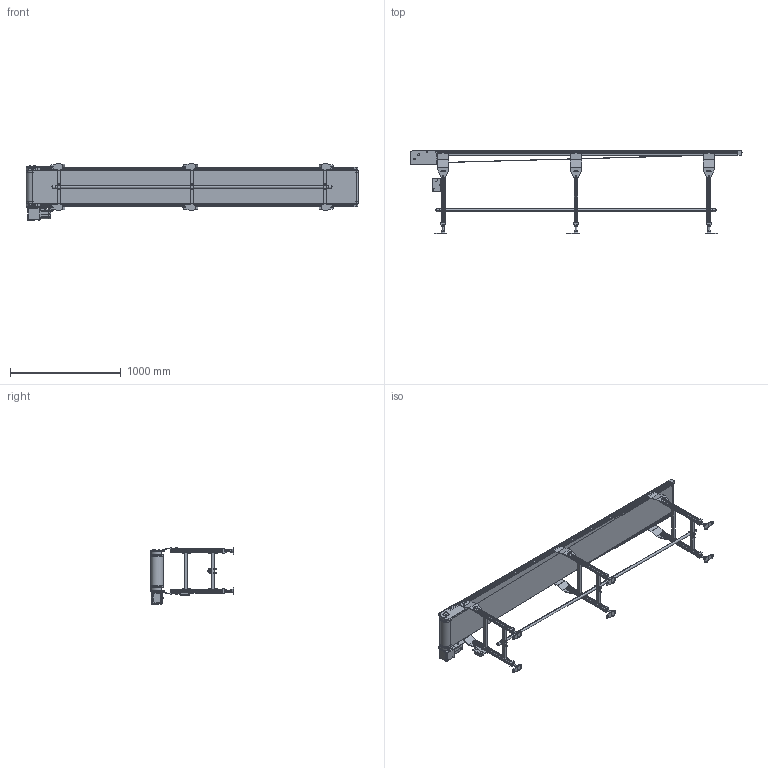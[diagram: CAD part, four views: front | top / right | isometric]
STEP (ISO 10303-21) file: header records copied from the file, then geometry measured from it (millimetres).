
FILE_DESCRIPTION( (''), '2;1');
FILE_NAME ('MB23-HS-309-300-300-R-K-100-O.stp','2025-02-17T10:43:47',(''),(''),'spGate 20.6.2 (****-****-****-****)','','');
FILE_SCHEMA (('AUTOMOTIVE_DESIGN'));
Length unit declared in the file: millimetre
Products named in the file (57): NewModel; MB23-HS-300-3000-R; TEMP_X_T-prt0; TEMP_X_T-prt1; TEMP_X_T-prt2; TEMP_X_T-prt3; TEMP_X_T-prt4; TEMP_X_T-prt5; TEMP_X_T-prt6; TEMP_X_T-prt7; TEMP_X_T-prt8; TEMP_X_T-prt9; TEMP_X_T-prt10; TEMP_X_T-prt11; TEMP_X_T-prt12; TEMP_X_T-prt13; TEMP_X_T-prt14; TEMP_X_T-prt15; TEMP_X_T-prt16; TEMP_X_T-prt17; TEMP_X_T-prt18; TEMP_X_T-prt19; TEMP_X_T-prt20; TEMP_X_T-prt21; TEMP_X_T-prt22; TEMP_X_T-prt23; TEMP_X_T-prt24; TEMP_X_T-prt25; TEMP_X_T-prt26; TEMP_X_T-prt27; TEMP_X_T-prt28; TEMP_X_T-prt29; TEMP_X_T-prt30; TEMP_X_T-prt31; TEMP_X_T-prt32; TEMP_X_T-prt33; TEMP_X_T-prt34; TEMP_X_T-prt35; TEMP_X_T-prt36; TEMP_X_T-prt37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
Assembly tree (56 placements, depth 3):
  NewModel
    MB23-HS-300-3000-R
      TEMP_X_T-prt0
      TEMP_X_T-prt1
      TEMP_X_T-prt2
      TEMP_X_T-prt3
      TEMP_X_T-prt4
      TEMP_X_T-prt5
      TEMP_X_T-prt6
      TEMP_X_T-prt7
      TEMP_X_T-prt8
      TEMP_X_T-prt9
      TEMP_X_T-prt10
      TEMP_X_T-prt11
      TEMP_X_T-prt12
      TEMP_X_T-prt13
      TEMP_X_T-prt14
      TEMP_X_T-prt15
      TEMP_X_T-prt16
      TEMP_X_T-prt17
      TEMP_X_T-prt18
      TEMP_X_T-prt19
      TEMP_X_T-prt20
      TEMP_X_T-prt21
      TEMP_X_T-prt22
      TEMP_X_T-prt23
      TEMP_X_T-prt24
      TEMP_X_T-prt25
      TEMP_X_T-prt26
      TEMP_X_T-prt27
      TEMP_X_T-prt28
      TEMP_X_T-prt29
      TEMP_X_T-prt30
      TEMP_X_T-prt31
      TEMP_X_T-prt32
      TEMP_X_T-prt33
      TEMP_X_T-prt34
      TEMP_X_T-prt35
      TEMP_X_T-prt36
      TEMP_X_T-prt37
      TEMP_X_T-prt38
      TEMP_X_T-prt39
      TEMP_X_T-prt40
      TEMP_X_T-prt41
      TEMP_X_T-prt42
      TEMP_X_T-prt43
      TEMP_X_T-prt44
      TEMP_X_T-prt45
      TEMP_X_T-prt46
      TEMP_X_T-prt47
      TEMP_X_T-prt48
      TEMP_X_T-prt49
      TEMP_X_T-prt50
      TEMP_X_T-prt51
      TEMP_X_T-prt52
      TEMP_X_T-prt53
      TEMP_X_T-prt54
Bounding box: 3001.41 x 752.7 x 518 mm (x, y, z)
Volume: 18454495.5 mm3; surface area: 9106482.3 mm2
Topology: 55 solids, 55 shells, 2786 faces, 7061 edges, 4588 vertices
Faces by surface type: plane 1931, cylinder 717, bspline 130, sphere 8
Entity records: 144838 total; most frequent: CARTESIAN_POINT 19535, ORIENTED_EDGE 14082, DIRECTION 13535, COLOUR_RGB 9882, PRESENTATION_STYLE_ASSIGNMENT 9882, STYLED_ITEM 9882, EDGE_CURVE 7041, DRAUGHTING_PRE_DEFINED_CURVE_FONT 7041
